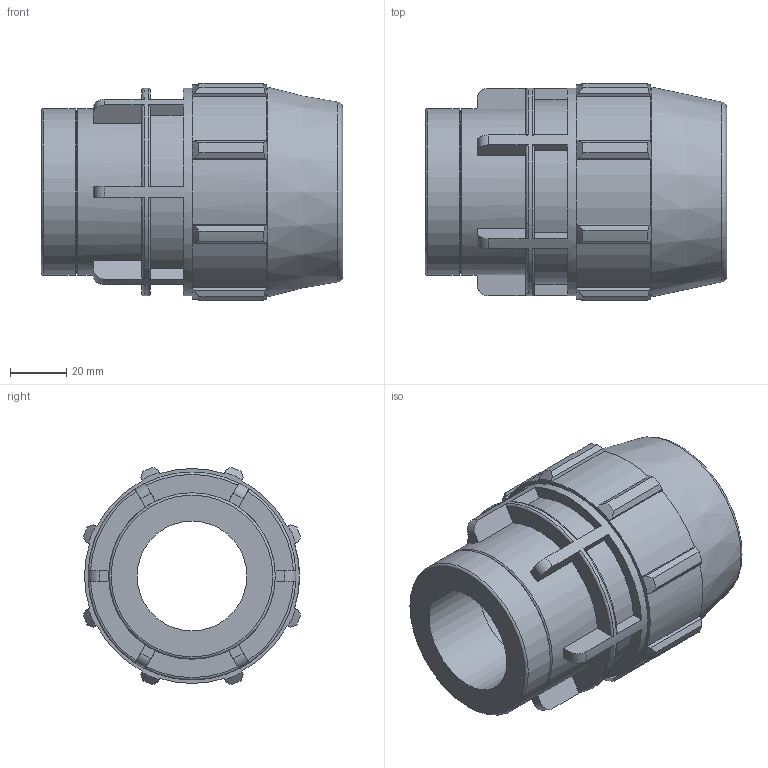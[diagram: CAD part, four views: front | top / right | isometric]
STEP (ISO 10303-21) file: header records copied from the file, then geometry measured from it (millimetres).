
FILE_DESCRIPTION(/* description */ ('PLASSON FEMALE ADAPTOR G 1 1/4'''' - 1 1/4''''F'),/* implementation_level */ '2;1');
FILE_NAME(/* name */ 'C:\Dropbox\KIMPROJECTS-Inventor 2019\99-16-3568-Processing Inch\ASTM Compression 2021\0703M0T\0703M0T13013.ipt.stp',/* time_stamp */ '2021-08-26T12:31:02+03:00',/* author */ ('KIM'),/* organization */ (''),/* preprocessor_version */ 'ST-DEVELOPER v17.2',/* originating_system */ 'Autodesk Inventor 2019',/* authorisation */ '');
FILE_SCHEMA (('AUTOMOTIVE_DESIGN { 1 0 10303 214 3 1 1 }'));
Length unit declared in the file: inch
Products named in the file (1): 0703M0T13013
Bounding box: 106.93 x 77.2 x 77.2 mm (x, y, z)
Volume: 246073.5 mm3; surface area: 47081.8 mm2
Topology: 1 solids, 1 shells, 148 faces, 420 edges, 284 vertices
Faces by surface type: plane 86, cylinder 28, torus 20, cone 14
Full cylindrical faces by diameter (mm): 38.952 x1, 39.995 x1, 42.1 x1, 59.07 x2, 73.838 x1
Entity records: 5404 total; most frequent: CARTESIAN_POINT 1337, ORIENTED_EDGE 840, DIRECTION 798, EDGE_CURVE 420, AXIS2_PLACEMENT_3D 297, VERTEX_POINT 284, LINE 204, VECTOR 204
